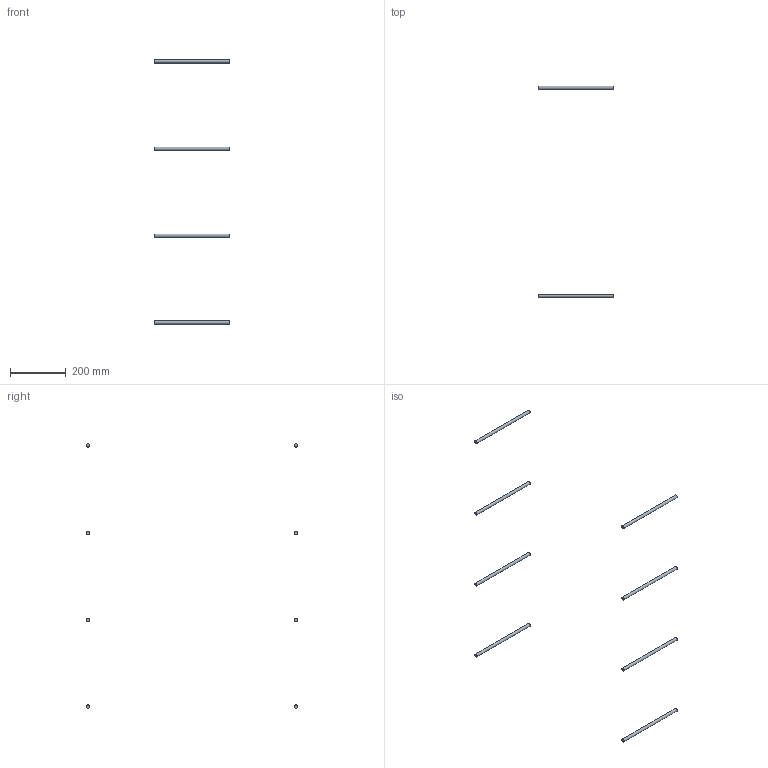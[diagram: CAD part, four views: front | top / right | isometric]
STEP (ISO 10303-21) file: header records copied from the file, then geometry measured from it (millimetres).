
FILE_DESCRIPTION(('Open CASCADE Model'),'2;1');
FILE_NAME('Open CASCADE Shape Model','2026-11-05T14:32:42',('Author'),( 'Open CASCADE'),'Open CASCADE STEP processor 7.9','Open CASCADE 7.9' ,'Unknown');
FILE_SCHEMA(('AUTOMOTIVE_DESIGN { 1 0 10303 214 1 1 1 1 }'));
Length unit declared in the file: millimetre
Products named in the file (9): C05_TIE_ROD_CORRIDORS_LOCAL; TIE_ROD_HAIRPIN_Z85.0_ALLOWANCE; TIE_ROD_HAIRPIN_Z397.0_ALLOWANCE; TIE_ROD_HAIRPIN_Z709.0_ALLOWANCE; TIE_ROD_HAIRPIN_Z1023.0_ALLOWANCE; TIE_ROD_HEADER_Z85.0_ALLOWANCE; TIE_ROD_HEADER_Z397.0_ALLOWANCE; TIE_ROD_HEADER_Z709.0_ALLOWANCE; TIE_ROD_HEADER_Z1023.0_ALLOWANCE
Assembly tree (8 placements, depth 2):
  C05_TIE_ROD_CORRIDORS_LOCAL
    TIE_ROD_HAIRPIN_Z85.0_ALLOWANCE
    TIE_ROD_HAIRPIN_Z397.0_ALLOWANCE
    TIE_ROD_HAIRPIN_Z709.0_ALLOWANCE
    TIE_ROD_HAIRPIN_Z1023.0_ALLOWANCE
    TIE_ROD_HEADER_Z85.0_ALLOWANCE
    TIE_ROD_HEADER_Z397.0_ALLOWANCE
    TIE_ROD_HEADER_Z709.0_ALLOWANCE
    TIE_ROD_HEADER_Z1023.0_ALLOWANCE
Bounding box: 270 x 759 x 950 mm (x, y, z)
Volume: 244290.2 mm3; surface area: 83239.6 mm2
Topology: 8 solids, 8 shells, 24 faces, 24 edges, 16 vertices
Faces by surface type: plane 16, cylinder 8
Full cylindrical faces by diameter (mm): 12 x8
Entity records: 961 total; most frequent: DIRECTION 154, CARTESIAN_POINT 121, AXIS2_PLACEMENT_3D 49, ORIENTED_EDGE 48, PCURVE 48, DEFINITIONAL_REPRESENTATION 48, LINE 40, VECTOR 40
